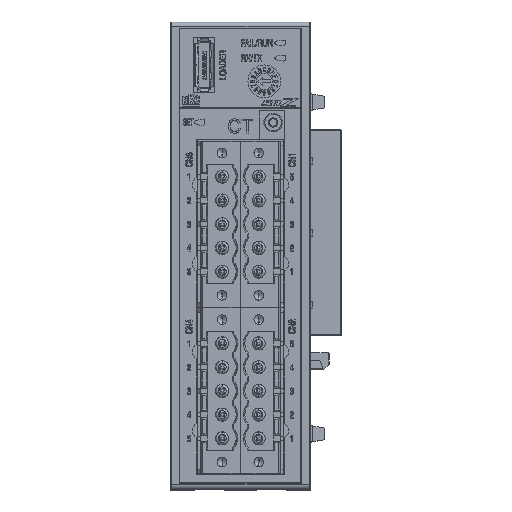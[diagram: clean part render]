
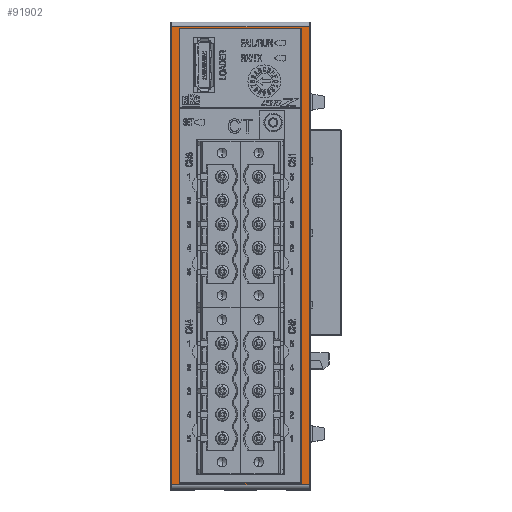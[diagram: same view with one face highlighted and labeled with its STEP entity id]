
A CAD part, top view. The second image highlights one B-rep face of the part: STEP entity #91902.
In plain terms, the highlighted planar face has unit normal (0, 0, 1).
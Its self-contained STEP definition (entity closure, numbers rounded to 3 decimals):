
#4679 = DIRECTION ( 'NONE',  ( 0., -1., 0. ) ) ;
#7814 = EDGE_CURVE ( 'NONE', #162034, #34767, #37003, .T. ) ;
#13394 = VECTOR ( 'NONE', #4679, 1000. ) ;
#13407 = CARTESIAN_POINT ( 'NONE',  ( 14.75, -49., 76.85 ) ) ;
#13526 = VERTEX_POINT ( 'NONE', #77291 ) ;
#19511 = VERTEX_POINT ( 'NONE', #146046 ) ;
#21786 = ORIENTED_EDGE ( 'NONE', *, *, #47529, .T. ) ;
#23763 = AXIS2_PLACEMENT_3D ( 'NONE', #46263, #174696, #89230 ) ;
#24763 = EDGE_CURVE ( 'NONE', #19511, #152918, #177708, .T. ) ;
#24975 = DIRECTION ( 'NONE',  ( -1., 0., 0. ) ) ;
#26511 = ORIENTED_EDGE ( 'NONE', *, *, #24763, .T. ) ;
#28907 = EDGE_CURVE ( 'NONE', #162446, #181911, #172226, .T. ) ;
#29704 = CARTESIAN_POINT ( 'NONE',  ( 13.05, 48.7, 76.85 ) ) ;
#34767 = VERTEX_POINT ( 'NONE', #93565 ) ;
#35085 = EDGE_LOOP ( 'NONE', ( #132755, #42792, #151447, #21786 ) ) ;
#37003 = LINE ( 'NONE', #110363, #45984 ) ;
#38830 = LINE ( 'NONE', #55462, #181604 ) ;
#39000 = DIRECTION ( 'NONE',  ( 0., 1., 0. ) ) ;
#42792 = ORIENTED_EDGE ( 'NONE', *, *, #173798, .T. ) ;
#43269 = VECTOR ( 'NONE', #138883, 1000. ) ;
#45984 = VECTOR ( 'NONE', #24975, 1000. ) ;
#46044 = EDGE_CURVE ( 'NONE', #152918, #162446, #38830, .T. ) ;
#46263 = CARTESIAN_POINT ( 'NONE',  ( -15., -50., 76.85 ) ) ;
#47529 = EDGE_CURVE ( 'NONE', #155820, #162034, #63083, .T. ) ;
#51292 = LINE ( 'NONE', #73199, #13394 ) ;
#55462 = CARTESIAN_POINT ( 'NONE',  ( 13.05, -48.7, 76.85 ) ) ;
#58387 = VECTOR ( 'NONE', #102143, 1000. ) ;
#58662 = VECTOR ( 'NONE', #39000, 1000. ) ;
#59729 = CARTESIAN_POINT ( 'NONE',  ( -13.05, -48.7, 76.85 ) ) ;
#63083 = LINE ( 'NONE', #110037, #58662 ) ;
#63875 = VECTOR ( 'NONE', #100732, 1000. ) ;
#68720 = CARTESIAN_POINT ( 'NONE',  ( 14.75, 49., 76.85 ) ) ;
#73199 = CARTESIAN_POINT ( 'NONE',  ( -14.75, -49., 76.85 ) ) ;
#74852 = PLANE ( 'NONE',  #23763 ) ;
#77291 = CARTESIAN_POINT ( 'NONE',  ( -14.75, -49., 76.85 ) ) ;
#79755 = EDGE_CURVE ( 'NONE', #13526, #155820, #173520, .T. ) ;
#81136 = LINE ( 'NONE', #82186, #43269 ) ;
#82186 = CARTESIAN_POINT ( 'NONE',  ( -13.05, 48.7, 76.85 ) ) ;
#89230 = DIRECTION ( 'NONE',  ( 1., 0., 0. ) ) ;
#91902 = ADVANCED_FACE ( 'NONE', ( #146210, #184251 ), #74852, .T. ) ;
#93565 = CARTESIAN_POINT ( 'NONE',  ( -14.75, 49., 76.85 ) ) ;
#95282 = EDGE_LOOP ( 'NONE', ( #101889, #26511, #165663, #131600 ) ) ;
#100732 = DIRECTION ( 'NONE',  ( 0., -1., 0. ) ) ;
#101889 = ORIENTED_EDGE ( 'NONE', *, *, #143838, .T. ) ;
#101897 = DIRECTION ( 'NONE',  ( 1., 0., 0. ) ) ;
#102098 = VECTOR ( 'NONE', #101897, 1000. ) ;
#102143 = DIRECTION ( 'NONE',  ( 0., 1., 0. ) ) ;
#110037 = CARTESIAN_POINT ( 'NONE',  ( 14.75, 49., 76.85 ) ) ;
#110363 = CARTESIAN_POINT ( 'NONE',  ( -15., 49., 76.85 ) ) ;
#116217 = CARTESIAN_POINT ( 'NONE',  ( 13.05, -48.7, 76.85 ) ) ;
#116495 = CARTESIAN_POINT ( 'NONE',  ( -13.05, 48.7, 76.85 ) ) ;
#125869 = DIRECTION ( 'NONE',  ( -1., 0., 0. ) ) ;
#131600 = ORIENTED_EDGE ( 'NONE', *, *, #28907, .T. ) ;
#132755 = ORIENTED_EDGE ( 'NONE', *, *, #7814, .T. ) ;
#138883 = DIRECTION ( 'NONE',  ( 1., 0., 0. ) ) ;
#143838 = EDGE_CURVE ( 'NONE', #181911, #19511, #81136, .T. ) ;
#146046 = CARTESIAN_POINT ( 'NONE',  ( 13.05, 48.7, 76.85 ) ) ;
#146210 = FACE_OUTER_BOUND ( 'NONE', #35085, .T. ) ;
#151447 = ORIENTED_EDGE ( 'NONE', *, *, #79755, .T. ) ;
#152918 = VERTEX_POINT ( 'NONE', #116217 ) ;
#155820 = VERTEX_POINT ( 'NONE', #13407 ) ;
#162034 = VERTEX_POINT ( 'NONE', #68720 ) ;
#162446 = VERTEX_POINT ( 'NONE', #180722 ) ;
#165663 = ORIENTED_EDGE ( 'NONE', *, *, #46044, .T. ) ;
#172226 = LINE ( 'NONE', #59729, #58387 ) ;
#173015 = CARTESIAN_POINT ( 'NONE',  ( 15., -49., 76.85 ) ) ;
#173520 = LINE ( 'NONE', #173015, #102098 ) ;
#173798 = EDGE_CURVE ( 'NONE', #34767, #13526, #51292, .T. ) ;
#174696 = DIRECTION ( 'NONE',  ( 0., 0., 1. ) ) ;
#177708 = LINE ( 'NONE', #29704, #63875 ) ;
#180722 = CARTESIAN_POINT ( 'NONE',  ( -13.05, -48.7, 76.85 ) ) ;
#181604 = VECTOR ( 'NONE', #125869, 1000. ) ;
#181911 = VERTEX_POINT ( 'NONE', #116495 ) ;
#184251 = FACE_BOUND ( 'NONE', #95282, .T. ) ;
